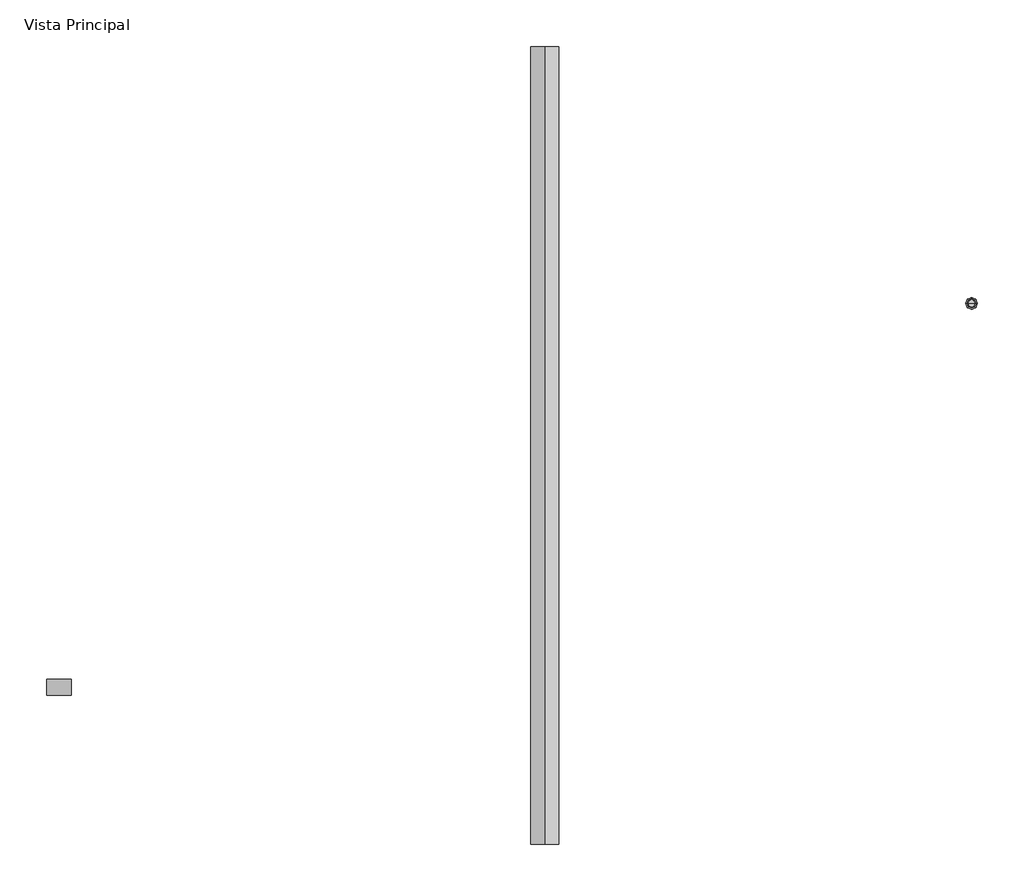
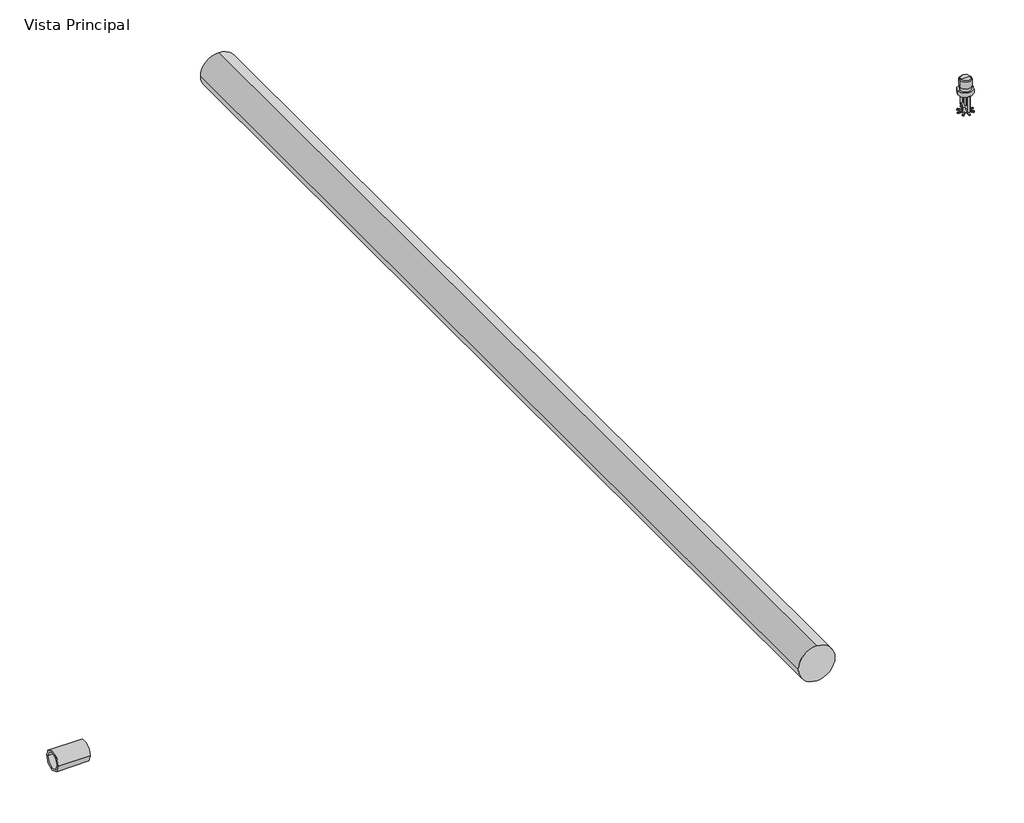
# One storey, incomplete: 2 pipe fittings, 1 pipe segment.
"""IFC4 building model written with IfcOpenShell, lengths in millimetres."""

import ifcopenshell
import ifcopenshell.guid

model = None  # the IFC model being written
_history = None  # IfcOwnerHistory: only IFC2X3 demands one
_inside = {}  # id of a spatial element -> (the spatial element, [elements in it])
_under = {}  # id of a project, library or spatial element -> (it, [spatial elements below it])
_declared = {}  # id of a project -> (the project, [libraries it declares])
_typed = {}  # id of a type object -> (the type object, [elements of that type])
_made_of = {}  # id of a material, layer set ... -> (it, [elements and type objects made of it])


def new_model(schema):
    """Start an empty IFC model of exactly this schema.

    Asked for "IFC4X3", IfcOpenShell would pick the latest addendum, in which some entities
    have other attributes; the version numbers below select the first issue.
    IFC2X3 requires an IfcOwnerHistory on every rooted entity: one is made here for all.
    """
    global model, _history
    if schema == "IFC4X3":
        model = ifcopenshell.file(schema_version=(4, 3, 0, 0))
    else:
        model = ifcopenshell.file(schema=schema)
    _inside.clear()
    _under.clear()
    _declared.clear()
    _typed.clear()
    _made_of.clear()
    _history = None
    if model.schema == "IFC2X3":
        org = make("IfcOrganization", Name="unknown")
        user = make(
            "IfcPersonAndOrganization",
            ThePerson=make("IfcPerson", FamilyName="unknown"),
            TheOrganization=org,
        )
        app = make(
            "IfcApplication",
            ApplicationDeveloper=org,
            Version="unknown",
            ApplicationFullName="unknown",
            ApplicationIdentifier="unknown",
        )
        _history = make(
            "IfcOwnerHistory",
            OwningUser=user,
            OwningApplication=app,
            ChangeAction="ADDED",
            CreationDate=0,
        )
    return model


def make(cls, **values):
    """One entity of the class cls with the attributes given. An attribute that is None is left unset."""
    return model.create_entity(
        cls, **{name: value for name, value in values.items() if value is not None}
    )


def rooted(cls, **values):
    """An entity with a GlobalId (a new one), such as an element, a storey or a relation."""
    return make(cls, GlobalId=ifcopenshell.guid.new(), OwnerHistory=_history, **values)


def si_unit(unit_type, name, prefix=None):
    """IfcSIUnit, for example si_unit("LENGTHUNIT", "METRE", prefix="MILLI")."""
    return make("IfcSIUnit", UnitType=unit_type, Prefix=prefix, Name=name)


def assignment(units):
    """IfcUnitAssignment: the units of a project."""
    return None if units is None else make("IfcUnitAssignment", Units=units)


def point(xyz):
    """IfcCartesianPoint."""
    return None if xyz is None else make("IfcCartesianPoint", Coordinates=xyz)


def direction(xyz):
    """IfcDirection."""
    return None if xyz is None else make("IfcDirection", DirectionRatios=xyz)


def frame(location, z_axis=None, x_axis=None):
    """IfcAxis2Placement3D, a coordinate frame: its origin and axes. An axis left out is left unset."""
    return make(
        "IfcAxis2Placement3D",
        Location=point(location),
        Axis=direction(z_axis),
        RefDirection=direction(x_axis),
    )


def frame_2d(location, x_axis=None):
    """IfcAxis2Placement2D, a coordinate frame in the plane: its origin and x axis."""
    return make(
        "IfcAxis2Placement2D", Location=point(location), RefDirection=direction(x_axis)
    )


def origin():
    """The frame at (0, 0, 0) with its axes left unset."""
    return frame((0.0, 0.0, 0.0))


def origin_with_axes():
    """The frame at (0, 0, 0) with the z axis (0, 0, 1) and the x axis (1, 0, 0) written out."""
    return frame((0.0, 0.0, 0.0), z_axis=(0.0, 0.0, 1.0), x_axis=(1.0, 0.0, 0.0))


def origin_2d():
    """The frame at (0, 0) in the plane with its x axis left unset."""
    return frame_2d((0.0, 0.0))


def place(relative_to, where):
    """IfcLocalPlacement: puts the frame where relative to a parent placement (None: the world)."""
    return make(
        "IfcLocalPlacement", PlacementRelTo=relative_to, RelativePlacement=where
    )


def context(
    kind, dimensions, precision=None, world=None, true_north=None, identifier=None
):
    """IfcGeometricRepresentationContext, for example the 3D "Model" context."""
    return make(
        "IfcGeometricRepresentationContext",
        ContextIdentifier=identifier,
        ContextType=kind,
        CoordinateSpaceDimension=dimensions,
        Precision=precision,
        WorldCoordinateSystem=world,
        TrueNorth=true_north,
    )


def project(units=None, contexts=None):
    """IfcProject with its units and contexts."""
    return rooted(
        "IfcProject",
        Name="project",
        RepresentationContexts=contexts,
        UnitsInContext=assignment(units),
    )


def spatial(cls, under=None, at=None, **own):
    """A site, building, storey or space (cls), placed at a placement, below another one or the project."""
    s = rooted(cls, ObjectPlacement=at, **own)
    if under is not None:
        _under.setdefault(under.id(), (under, []))[1].append(s)
    return s


def polyline(points):
    """IfcPolyline through the points."""
    return make("IfcPolyline", Points=[point(p) for p in points])


def circle_curve(where, radius):
    """IfcCircle in the frame where."""
    return make("IfcCircle", Position=where, Radius=radius)


def trimmed(basis, trim1, trim2, sense, master):
    """IfcTrimmedCurve: the piece of a basis curve between two trims."""
    return make(
        "IfcTrimmedCurve",
        BasisCurve=basis,
        Trim1=trim1,
        Trim2=trim2,
        SenseAgreement=sense,
        MasterRepresentation=master,
    )


def segment(curve, same_sense, transition):
    """IfcCompositeCurveSegment."""
    return make(
        "IfcCompositeCurveSegment",
        Transition=transition,
        SameSense=same_sense,
        ParentCurve=curve,
    )


def composite_curve(segments, self_intersect=None):
    """IfcCompositeCurve: segments joined end to end."""
    return make("IfcCompositeCurve", Segments=segments, SelfIntersect=self_intersect)


def outline(outer, holes=None, kind="AREA"):
    """IfcArbitraryClosedProfileDef: a profile drawn as a closed curve; with holes, ...WithVoids."""
    if holes is None:
        return make("IfcArbitraryClosedProfileDef", ProfileType=kind, OuterCurve=outer)
    return make(
        "IfcArbitraryProfileDefWithVoids",
        ProfileType=kind,
        OuterCurve=outer,
        InnerCurves=holes,
    )


def extrude(swept, where, along, depth):
    """IfcExtrudedAreaSolid: the profile swept, set in the frame where, extruded along a direction by depth."""
    return make(
        "IfcExtrudedAreaSolid",
        SweptArea=swept,
        Position=where,
        ExtrudedDirection=direction(along),
        Depth=depth,
    )


def shape(context_of_items, identifier, shape_type, items):
    """IfcShapeRepresentation: the items that make up one representation, for example the "Body"."""
    return make(
        "IfcShapeRepresentation",
        ContextOfItems=context_of_items,
        RepresentationIdentifier=identifier,
        RepresentationType=shape_type,
        Items=items,
    )


def source(mapping_origin, context_of_items, identifier, shape_type, items):
    """IfcRepresentationMap: a shape defined once, which mapped items show again and again."""
    return make(
        "IfcRepresentationMap",
        MappingOrigin=mapping_origin,
        MappedRepresentation=shape(context_of_items, identifier, shape_type, items),
    )


def transform(
    local_origin,
    x_axis=None,
    y_axis=None,
    z_axis=None,
    scale=None,
    scale2=None,
    scale3=None,
    uniform=True,
):
    """IfcCartesianTransformationOperator3D, or its non-uniform kind. x_axis, y_axis, z_axis: its Axis1, 2, 3."""
    if uniform:
        return make(
            "IfcCartesianTransformationOperator3D",
            Axis1=direction(x_axis),
            Axis2=direction(y_axis),
            LocalOrigin=point(local_origin),
            Scale=scale,
            Axis3=direction(z_axis),
        )
    return make(
        "IfcCartesianTransformationOperator3DnonUniform",
        Axis1=direction(x_axis),
        Axis2=direction(y_axis),
        LocalOrigin=point(local_origin),
        Scale=scale,
        Axis3=direction(z_axis),
        Scale2=scale2,
        Scale3=scale3,
    )


def mapped(mapping_source, mapping_target):
    """IfcMappedItem: shows the shape of a source again, moved by a transform."""
    return make(
        "IfcMappedItem", MappingSource=mapping_source, MappingTarget=mapping_target
    )


def made_of(thing, what):
    """Note that an element or type object is made of a material, layer set ...; save() writes the relation."""
    if what is not None:
        _made_of.setdefault(what.id(), (what, []))[1].append(thing)
    return thing


def element(
    cls,
    number,
    at=None,
    inside=None,
    cuts=None,
    type_object=None,
    material=None,
    context=None,
    identifier="Body",
    shape_type=None,
    held_by="IfcProductDefinitionShape",
    body=None,
    shapes=None,
    **own,
):
    """One element of the class cls, such as IfcWall. Its Tag is "e" and its number.

    at: its placement. inside: the storey or other place that contains it. cuts: it is an
    opening in that element (IfcRelVoidsElement). A single representation is given by context,
    identifier, shape_type and body (its items); several are given by shapes. held_by: the class
    of the entity that holds the representations. save() writes the other relations.
    """
    e = rooted(cls, Tag="e%d" % number, ObjectPlacement=at, **own)
    if body is not None:
        shapes = [shape(context, identifier, shape_type, body)]
    if shapes is not None:
        e.Representation = make(held_by, Representations=shapes)
    if inside is not None:
        _inside.setdefault(inside.id(), (inside, []))[1].append(e)
    if cuts is not None:
        rooted(
            "IfcRelVoidsElement", RelatingBuildingElement=cuts, RelatedOpeningElement=e
        )
    if type_object is not None:
        _typed.setdefault(type_object.id(), (type_object, []))[1].append(e)
    return made_of(e, material)


def aggregate(whole, parts):
    """IfcRelAggregates: a whole, such as a stair, and the parts it consists of."""
    return rooted("IfcRelAggregates", RelatingObject=whole, RelatedObjects=parts)


def save(model, path):
    """Write the relations noted so far, then the file.

    IfcRelAggregates (storeys below a building ...), IfcRelContainedInSpatialStructure (elements
    in a storey), IfcRelDefinesByType, IfcRelAssociatesMaterial and IfcRelDeclares: one each for
    every whole, place, type object, material and project.
    """
    for whole, parts in _under.values():
        aggregate(whole, parts)
    for where, things in _inside.values():
        rooted(
            "IfcRelContainedInSpatialStructure",
            RelatedElements=things,
            RelatingStructure=where,
        )
    for kind, things in _typed.values():
        rooted("IfcRelDefinesByType", RelatedObjects=things, RelatingType=kind)
    for what, things in _made_of.values():
        rooted("IfcRelAssociatesMaterial", RelatedObjects=things, RelatingMaterial=what)
    for by, libraries in _declared.values():
        rooted("IfcRelDeclares", RelatingContext=by, RelatedDefinitions=libraries)
    model.write(path)


def plane_surface(at):
    """IfcPlane: the flat surface through the origin of the frame at, square to its z axis."""
    return make("IfcPlane", Position=at)


def cylinder_surface(at, radius):
    """IfcCylindricalSurface: all points at the distance radius from the z axis of the frame at."""
    return make("IfcCylindricalSurface", Position=at, Radius=radius)


def revolved_surface(curve, axis_point, axis_direction):
    """IfcSurfaceOfRevolution: the curve turned about the line through axis_point along axis_direction."""
    return make(
        "IfcSurfaceOfRevolution",
        SweptCurve=make("IfcArbitraryOpenProfileDef", ProfileType="CURVE", Curve=curve),
        AxisPosition=make("IfcAxis1Placement", Location=point(axis_point), Axis=direction(axis_direction)),
    )


def advanced_brep(points, edges, surfaces, faces):
    """IfcAdvancedBrep: a solid bounded by faces that lie on surfaces and meet in shared edges.

    An edge is (start, end): straight between two places in points (the first is 0);
    or (start, end, curve); or (start, end, curve, False) where it runs against its curve.
    A face is (place in surfaces, loops), or (place, loops, False) where it looks against
    its surface's normal. A loop lists edges by number (the first is 1), with a minus sign
    where the edge is run from its end to its start. The first loop is the outer one.
    """
    corners = [point(p) for p in points]
    vertices = [make("IfcVertexPoint", VertexGeometry=c) for c in corners]
    made = []
    for start, end, *more in edges:
        made.append(
            make(
                "IfcEdgeCurve",
                EdgeStart=vertices[start],
                EdgeEnd=vertices[end],
                EdgeGeometry=more[0] if more else make("IfcPolyline", Points=[corners[start], corners[end]]),
                SameSense=more[1] if len(more) > 1 else True,
            )
        )
    hull = []
    for where, loops, *sense in faces:
        bounds = []
        for j, loop in enumerate(loops):
            ring = [make("IfcOrientedEdge", EdgeElement=made[abs(k) - 1], Orientation=k > 0) for k in loop]
            bounds.append(
                make(
                    "IfcFaceOuterBound" if j == 0 else "IfcFaceBound",
                    Bound=make("IfcEdgeLoop", EdgeList=ring),
                    Orientation=True,
                )
            )
        hull.append(make("IfcAdvancedFace", Bounds=bounds, FaceSurface=surfaces[where], SameSense=sense[0] if sense else True))
    return make("IfcAdvancedBrep", Outer=make("IfcClosedShell", CfsFaces=hull))


def var_06a8be00(model_context):
    return source(origin(), model_context, "Body", "AdvancedBrep", [
        advanced_brep(
        [(-1.525, 0.0, 0.0), (-1.525, 13.55, 0.0), (-1.525, -13.55, 0.0), (1.525, -13.55, 0.0), (1.525, 13.55, 0.0), (1.525, 0.0, 0.0), (26.425, -13.55, 0.0), (26.425, 13.55, 0.0), (26.425, -16.6, 0.0), (26.425, 16.6, 0.0), (-26.425, -16.6, 0.0), (-26.425, 16.6, 0.0), (-26.425, -13.55, 0.0), (-26.425, 13.55, 0.0)],
        [
            (0, 1),
            (1, 2, circle_curve(frame((-1.525, 0.0, 0.0), z_axis=(-1.0, 0.0, 0.0), x_axis=(0.0, 1.0, 0.0)), 13.55)),
            (2, 0),
            (2, 1, circle_curve(frame((-1.525, 0.0, 0.0), z_axis=(-1.0, 0.0, 0.0), x_axis=(0.0, 1.0, 0.0)), 13.55)),
            (3, 4, circle_curve(frame((1.525, 0.0, 0.0), z_axis=(1.0, 0.0, 0.0), x_axis=(0.0, 1.0, 0.0)), 13.55)),
            (4, 5),
            (5, 3),
            (4, 3, circle_curve(frame((1.525, 0.0, 0.0), z_axis=(1.0, 0.0, 0.0), x_axis=(0.0, 1.0, 0.0)), 13.55)),
            (6, 7, circle_curve(frame((26.425, 0.0, 0.0), z_axis=(1.0, 0.0, 0.0), x_axis=(0.0, 1.0, 0.0)), 13.55)),
            (7, 4),
            (3, 6),
            (7, 6, circle_curve(frame((26.425, 0.0, 0.0), z_axis=(1.0, 0.0, 0.0), x_axis=(0.0, 1.0, 0.0)), 13.55)),
            (8, 9, circle_curve(frame((26.425, 0.0, 0.0), z_axis=(1.0, 0.0, 0.0), x_axis=(0.0, 1.0, 0.0)), 16.6)),
            (9, 7),
            (6, 8),
            (9, 8, circle_curve(frame((26.425, 0.0, 0.0), z_axis=(1.0, 0.0, 0.0), x_axis=(0.0, 1.0, 0.0)), 16.6)),
            (10, 11, circle_curve(frame((-26.425, 0.0, 0.0), z_axis=(1.0, 0.0, 0.0), x_axis=(0.0, 1.0, 0.0)), 16.6)),
            (11, 9),
            (8, 10),
            (11, 10, circle_curve(frame((-26.425, 0.0, 0.0), z_axis=(1.0, 0.0, 0.0), x_axis=(0.0, 1.0, 0.0)), 16.6)),
            (12, 13, circle_curve(frame((-26.425, 0.0, 0.0), z_axis=(1.0, 0.0, 0.0), x_axis=(0.0, 1.0, 0.0)), 13.55)),
            (13, 11),
            (10, 12),
            (13, 12, circle_curve(frame((-26.425, 0.0, 0.0), z_axis=(1.0, 0.0, 0.0), x_axis=(0.0, 1.0, 0.0)), 13.55)),
            (1, 13),
            (12, 2),
        ],
        [
            plane_surface(frame((-1.525, 0.0, 0.0), z_axis=(-1.0, 0.0, 0.0), x_axis=(0.0, 1.0, 0.0))),
            plane_surface(frame((1.525, 0.0, 0.0), z_axis=(1.0, 0.0, 0.0), x_axis=(0.0, 1.0, 0.0))),
            revolved_surface(polyline([(1.525000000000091, 13.55, 0.0), (26.424999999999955, 13.55, 0.0)]), (1997.49, 0.0, 0.0), (-1.0, 0.0, 0.0)),
            plane_surface(frame((26.425, 0.0, 0.0), z_axis=(1.0, 0.0, 0.0), x_axis=(0.0, 1.0, 0.0))),
            cylinder_surface(frame((1997.49, 0.0, 0.0), z_axis=(-1.0, 0.0, 0.0), x_axis=(0.0, 1.0, 0.0)), 16.6),
            plane_surface(frame((-26.425, 0.0, 0.0), z_axis=(-1.0, 0.0, 0.0), x_axis=(0.0, 1.0, 0.0))),
            revolved_surface(polyline([(-26.424999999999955, 13.55, 0.0), (-1.525000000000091, 13.55, 0.0)]), (1997.49, 0.0, 0.0), (-1.0, 0.0, 0.0)),
        ],
        [
            (0, [[1, 2, 3]]),
            (0, [[-3, 4, -1]]),
            (1, [[5, 6, 7]]),
            (1, [[8, -7, -6]]),
            (2, [[9, 10, -5, 11]]),
            (2, [[12, -11, -8, -10]]),
            (3, [[13, 14, -9, 15]]),
            (3, [[16, -15, -12, -14]]),
            (4, [[17, 18, -13, 19]]),
            (4, [[20, -19, -16, -18]]),
            (5, [[21, 22, -17, 23]]),
            (5, [[24, -23, -20, -22]]),
            (6, [[-2, 25, -21, 26]]),
            (6, [[-4, -26, -24, -25]]),
        ],
    ),
    ])


def var_fcf59cf1(model_context):
    return source(origin(), model_context, "Body", "SolidModel", [
        advanced_brep(
        [(0.0, -12.4454107, -52.5), (-2.0, -10.4454107, -52.5), (-2.0, -4.385476, -52.5), (2.0, -4.385476, -52.5), (2.0, -10.4454107, -52.5), (-2.0, 10.4454107, -52.5), (0.0, 12.4454107, -52.5), (2.0, 10.4454107, -52.5), (2.0, 4.385476, -52.5), (-2.0, 4.385476, -52.5), (0.0, -12.4454107, -25.5), (0.0, -8.4454107, -25.5), (0.0, 8.4454107, -25.5), (0.0, 12.4454107, -25.5), (0.0, -8.4454107, -48.5), (-2.0, -10.4454107, -48.5), (2.0, -10.4454107, -48.5), (-2.0, 10.4454107, -48.5), (0.0, 8.4454107, -48.5), (2.0, 10.4454107, -48.5), (2.0, -4.385476, -48.5), (4.82, 0.0, -48.5), (2.0, 4.385476, -48.5), (-2.0, 4.385476, -48.5), (-4.82, 0.0, -48.5), (-2.0, -4.385476, -48.5), (1.0, -12.5, -58.0), (-1.0, -12.5, -58.0), (-1.0, -4.7151246, -58.0), (-2.6269898, -4.0412034, -58.0), (-8.131728, -9.5459415, -58.0), (-9.5459415, -8.131728, -58.0), (-4.0412034, -2.6269898, -58.0), (-4.7151246, -1.0, -58.0), (-12.5, -1.0, -58.0), (-12.5, 1.0, -58.0), (-4.7151246, 1.0, -58.0), (-4.0412034, 2.6269898, -58.0), (-9.5459415, 8.131728, -58.0), (-8.131728, 9.5459415, -58.0), (-2.6269898, 4.0412034, -58.0), (-1.0, 4.7151246, -58.0), (-1.0, 12.5, -58.0), (1.0, 12.5, -58.0), (1.0, 4.7151246, -58.0), (2.6269898, 4.0412034, -58.0), (8.131728, 9.5459415, -58.0), (9.5459415, 8.131728, -58.0), (4.0412034, 2.6269898, -58.0), (4.7151246, 1.0, -58.0), (12.5, 1.0, -58.0), (12.5, -1.0, -58.0), (4.7151246, -1.0, -58.0), (4.0412034, -2.6269898, -58.0), (9.5459415, -8.131728, -58.0), (8.131728, -9.5459415, -58.0), (2.6269898, -4.0412034, -58.0), (1.0, -4.7151246, -58.0), (4.82, 0.0, -56.0), (4.7151246, 1.0, -56.0), (4.0412034, 2.6269898, -56.0), (2.6269898, 4.0412034, -56.0), (1.0, 4.7151246, -56.0), (-1.0, 4.7151246, -56.0), (-2.6269898, 4.0412034, -56.0), (-4.0412034, 2.6269898, -56.0), (-4.7151246, 1.0, -56.0), (-4.82, 0.0, -56.0), (-4.7151246, -1.0, -56.0), (-4.0412034, -2.6269898, -56.0), (-2.6269898, -4.0412034, -56.0), (-1.0, -4.7151246, -56.0), (1.0, -4.7151246, -56.0), (2.6269898, -4.0412034, -56.0), (4.0412034, -2.6269898, -56.0), (4.7151246, -1.0, -56.0), (-1.0, -12.5, -56.0), (1.0, -12.5, -56.0), (8.131728, -9.5459415, -56.0), (9.5459415, -8.131728, -56.0), (12.5, -1.0, -56.0), (12.5, 1.0, -56.0), (9.5459415, 8.131728, -56.0), (8.131728, 9.5459415, -56.0), (1.0, 12.5, -56.0), (-1.0, 12.5, -56.0), (-8.131728, 9.5459415, -56.0), (-9.5459415, 8.131728, -56.0), (-12.5, 1.0, -56.0), (-12.5, -1.0, -56.0), (-9.5459415, -8.131728, -56.0), (-8.131728, -9.5459415, -56.0)],
        [
            (0, 1, circle_curve(frame((0.0, -10.4454107, -52.5), z_axis=(0.0, 0.0, -1.0), x_axis=(0.0, 1.0, 0.0)), 2.0)),
            (1, 2),
            (2, 3, circle_curve(frame((0.0, 0.0, -52.5), z_axis=(0.0, 0.0, 1.0), x_axis=(1.0, 0.0, 0.0)), 4.82)),
            (3, 4),
            (4, 0, circle_curve(frame((0.0, -10.4454107, -52.5), z_axis=(0.0, 0.0, -1.0), x_axis=(0.0, 1.0, 0.0)), 2.0)),
            (5, 6, circle_curve(frame((0.0, 10.4454107, -52.5), z_axis=(0.0, 0.0, -1.0), x_axis=(0.0, 1.0, 0.0)), 2.0)),
            (6, 7, circle_curve(frame((0.0, 10.4454107, -52.5), z_axis=(0.0, 0.0, -1.0), x_axis=(0.0, 1.0, 0.0)), 2.0)),
            (7, 8),
            (8, 9, circle_curve(frame((0.0, 0.0, -52.5), z_axis=(0.0, 0.0, 1.0), x_axis=(1.0, 0.0, 0.0)), 4.82)),
            (9, 5),
            (10, 11, circle_curve(frame((0.0, -10.4454107, -25.5), z_axis=(0.0, 0.0, 1.0), x_axis=(0.0, 1.0, 0.0)), 2.0)),
            (11, 10, circle_curve(frame((0.0, -10.4454107, -25.5), z_axis=(0.0, 0.0, 1.0), x_axis=(0.0, 1.0, 0.0)), 2.0)),
            (12, 13, circle_curve(frame((0.0, 10.4454107, -25.5), z_axis=(0.0, 0.0, 1.0), x_axis=(0.0, 1.0, 0.0)), 2.0)),
            (13, 12, circle_curve(frame((0.0, 10.4454107, -25.5), z_axis=(0.0, 0.0, 1.0), x_axis=(0.0, 1.0, 0.0)), 2.0)),
            (11, 14),
            (14, 15, circle_curve(frame((0.0, -10.4454107, -48.5), z_axis=(0.0, 0.0, 1.0), x_axis=(0.0, 1.0, 0.0)), 2.0)),
            (15, 1),
            (0, 10),
            (4, 16),
            (16, 14, circle_curve(frame((0.0, -10.4454107, -48.5), z_axis=(0.0, 0.0, 1.0), x_axis=(0.0, 1.0, 0.0)), 2.0)),
            (13, 6),
            (5, 17),
            (17, 18, circle_curve(frame((0.0, 10.4454107, -48.5), z_axis=(0.0, 0.0, 1.0), x_axis=(0.0, 1.0, 0.0)), 2.0)),
            (18, 12),
            (18, 19, circle_curve(frame((0.0, 10.4454107, -48.5), z_axis=(0.0, 0.0, 1.0), x_axis=(0.0, 1.0, 0.0)), 2.0)),
            (19, 7),
            (16, 20),
            (20, 21, circle_curve(frame((0.0, 0.0, -48.5), z_axis=(0.0, 0.0, 1.0), x_axis=(1.0, 0.0, 0.0)), 4.82)),
            (21, 22, circle_curve(frame((0.0, 0.0, -48.5), z_axis=(0.0, 0.0, 1.0), x_axis=(1.0, 0.0, 0.0)), 4.82)),
            (22, 19),
            (17, 23),
            (23, 24, circle_curve(frame((0.0, 0.0, -48.5), z_axis=(0.0, 0.0, 1.0), x_axis=(1.0, 0.0, 0.0)), 4.82)),
            (24, 25, circle_curve(frame((0.0, 0.0, -48.5), z_axis=(0.0, 0.0, 1.0), x_axis=(1.0, 0.0, 0.0)), 4.82)),
            (25, 15),
            (25, 2),
            (9, 23),
            (3, 20),
            (22, 8),
            (26, 27),
            (27, 28),
            (28, 29, circle_curve(frame((0.0, 0.0, -58.0), z_axis=(0.0, 0.0, -1.0), x_axis=(1.0, 0.0, 0.0)), 4.82)),
            (29, 30),
            (30, 31),
            (31, 32),
            (32, 33, circle_curve(frame((0.0, 0.0, -58.0), z_axis=(0.0, 0.0, -1.0), x_axis=(1.0, 0.0, 0.0)), 4.82)),
            (33, 34),
            (34, 35),
            (35, 36),
            (36, 37, circle_curve(frame((0.0, 0.0, -58.0), z_axis=(0.0, 0.0, -1.0), x_axis=(1.0, 0.0, 0.0)), 4.82)),
            (37, 38),
            (38, 39),
            (39, 40),
            (40, 41, circle_curve(frame((0.0, 0.0, -58.0), z_axis=(0.0, 0.0, -1.0), x_axis=(1.0, 0.0, 0.0)), 4.82)),
            (41, 42),
            (42, 43),
            (43, 44),
            (44, 45, circle_curve(frame((0.0, 0.0, -58.0), z_axis=(0.0, 0.0, -1.0), x_axis=(1.0, 0.0, 0.0)), 4.82)),
            (45, 46),
            (46, 47),
            (47, 48),
            (48, 49, circle_curve(frame((0.0, 0.0, -58.0), z_axis=(0.0, 0.0, -1.0), x_axis=(1.0, 0.0, 0.0)), 4.82)),
            (49, 50),
            (50, 51),
            (51, 52),
            (52, 53, circle_curve(frame((0.0, 0.0, -58.0), z_axis=(0.0, 0.0, -1.0), x_axis=(1.0, 0.0, 0.0)), 4.82)),
            (53, 54),
            (54, 55),
            (55, 56),
            (56, 57, circle_curve(frame((0.0, 0.0, -58.0), z_axis=(0.0, 0.0, -1.0), x_axis=(1.0, 0.0, 0.0)), 4.82)),
            (57, 26),
            (21, 58),
            (58, 59, circle_curve(frame((0.0, 0.0, -56.0), z_axis=(0.0, 0.0, 1.0), x_axis=(1.0, 0.0, 0.0)), 4.82)),
            (59, 49),
            (48, 60),
            (60, 61, circle_curve(frame((0.0, 0.0, -56.0), z_axis=(0.0, 0.0, 1.0), x_axis=(1.0, 0.0, 0.0)), 4.82)),
            (61, 45),
            (44, 62),
            (62, 63, circle_curve(frame((0.0, 0.0, -56.0), z_axis=(0.0, 0.0, 1.0), x_axis=(1.0, 0.0, 0.0)), 4.82)),
            (63, 41),
            (40, 64),
            (64, 65, circle_curve(frame((0.0, 0.0, -56.0), z_axis=(0.0, 0.0, 1.0), x_axis=(1.0, 0.0, 0.0)), 4.82)),
            (65, 37),
            (36, 66),
            (66, 67, circle_curve(frame((0.0, 0.0, -56.0), z_axis=(0.0, 0.0, 1.0), x_axis=(1.0, 0.0, 0.0)), 4.82)),
            (67, 24),
            (67, 68, circle_curve(frame((0.0, 0.0, -56.0), z_axis=(0.0, 0.0, 1.0), x_axis=(1.0, 0.0, 0.0)), 4.82)),
            (68, 33),
            (32, 69),
            (69, 70, circle_curve(frame((0.0, 0.0, -56.0), z_axis=(0.0, 0.0, 1.0), x_axis=(1.0, 0.0, 0.0)), 4.82)),
            (70, 29),
            (28, 71),
            (71, 72, circle_curve(frame((0.0, 0.0, -56.0), z_axis=(0.0, 0.0, 1.0), x_axis=(1.0, 0.0, 0.0)), 4.82)),
            (72, 57),
            (56, 73),
            (73, 74, circle_curve(frame((0.0, 0.0, -56.0), z_axis=(0.0, 0.0, 1.0), x_axis=(1.0, 0.0, 0.0)), 4.82)),
            (74, 53),
            (52, 75),
            (75, 58, circle_curve(frame((0.0, 0.0, -56.0), z_axis=(0.0, 0.0, 1.0), x_axis=(1.0, 0.0, 0.0)), 4.82)),
            (76, 77),
            (77, 72),
            (71, 76),
            (26, 77),
            (76, 27),
            (78, 79),
            (79, 74),
            (73, 78),
            (54, 79),
            (78, 55),
            (80, 81),
            (81, 59),
            (75, 80),
            (50, 81),
            (80, 51),
            (82, 83),
            (83, 61),
            (60, 82),
            (46, 83),
            (82, 47),
            (84, 85),
            (85, 63),
            (62, 84),
            (42, 85),
            (84, 43),
            (86, 87),
            (87, 65),
            (64, 86),
            (38, 87),
            (86, 39),
            (88, 89),
            (89, 68),
            (66, 88),
            (34, 89),
            (88, 35),
            (90, 91),
            (91, 70),
            (69, 90),
            (30, 91),
            (90, 31),
        ],
        [
            plane_surface(frame((0.0, -8.4454107, -52.5), z_axis=(0.0, 0.0, -1.0), x_axis=(1.0, 0.0, 0.0))),
            plane_surface(frame((0.0, -8.4454107, -25.5), z_axis=(0.0, 0.0, 1.0), x_axis=(-1.0, 0.0, 0.0))),
            cylinder_surface(frame((0.0, -10.4454107, -25.5), z_axis=(0.0, 0.0, -1.0), x_axis=(0.0, 1.0, 0.0)), 2.0),
            cylinder_surface(frame((0.0, 10.4454107, -25.5), z_axis=(0.0, 0.0, -1.0), x_axis=(0.0, 1.0, 0.0)), 2.0),
            plane_surface(frame((-2.0, -10.4454107, -48.5), z_axis=(0.0, 0.0, 1.0), x_axis=(1.0, 0.0, 0.0))),
            plane_surface(frame((-2.0, -10.4454107, -52.5), z_axis=(-1.0, 0.0, 0.0), x_axis=(0.0, 0.0, 1.0))),
            plane_surface(frame((2.0, 10.4454107, -52.5), z_axis=(1.0, 0.0, 0.0), x_axis=(0.0, 0.0, 1.0))),
            plane_surface(frame((4.82, 0.0, -58.0), z_axis=(0.0, 0.0, -1.0), x_axis=(0.0, -1.0, 0.0))),
            cylinder_surface(frame((0.0, 0.0, -48.5), z_axis=(0.0, 0.0, -1.0), x_axis=(1.0, 0.0, 0.0)), 4.82),
            plane_surface(frame((-0.8556129, -12.5, -56.0), z_axis=(0.0, 0.0, 1.0), x_axis=(1.0, 0.0, 0.0))),
            plane_surface(frame((1.0, -12.5, -58.0), z_axis=(0.0, -1.0, 0.0), x_axis=(0.0, 0.0, 1.0))),
            plane_surface(frame((-1.0, -12.5, -58.0), z_axis=(-1.0, 0.0, 0.0), x_axis=(0.0, 0.0, 1.0))),
            plane_surface(frame((1.0, -3.9129669, -58.0), z_axis=(1.0, 0.0, 0.0), x_axis=(0.0, 0.0, 1.0))),
            plane_surface(frame((8.2338251, -9.4438444, -56.0), z_axis=(0.0, 0.0, 1.0), x_axis=(0.7071067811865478, 0.7071067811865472, 0.0))),
            plane_surface(frame((9.5459415, -8.131728, -58.0), z_axis=(0.7071067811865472, -0.7071067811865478, 0.0), x_axis=(0.0, 0.0, 1.0))),
            plane_surface(frame((8.131728, -9.5459415, -58.0), z_axis=(-0.7071067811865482, -0.7071067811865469, 0.0), x_axis=(0.0, 0.0, 1.0))),
            plane_surface(frame((3.4739922, -2.0597786, -58.0), z_axis=(0.707106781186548, 0.7071067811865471, 0.0), x_axis=(0.0, 0.0, 1.0))),
            plane_surface(frame((12.5, -0.8556129, -56.0), z_axis=(0.0, 0.0, 1.0), x_axis=(0.0, 1.0, 0.0))),
            plane_surface(frame((12.5, 1.0, -58.0), z_axis=(1.0, 0.0, 0.0), x_axis=(0.0, 0.0, 1.0))),
            plane_surface(frame((12.5, -1.0, -58.0), z_axis=(0.0, -1.0, 0.0), x_axis=(0.0, 0.0, 1.0))),
            plane_surface(frame((3.9129669, 1.0, -58.0), z_axis=(0.0, 1.0, 0.0), x_axis=(0.0, 0.0, 1.0))),
            plane_surface(frame((9.4438444, 8.2338251, -56.0), z_axis=(0.0, 0.0, 1.0), x_axis=(-0.707106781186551, 0.7071067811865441, 0.0))),
            plane_surface(frame((8.131728, 9.5459415, -58.0), z_axis=(0.7071067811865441, 0.707106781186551, 0.0), x_axis=(0.0, 0.0, 1.0))),
            plane_surface(frame((9.5459415, 8.131728, -58.0), z_axis=(0.7071067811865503, -0.7071067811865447, 0.0), x_axis=(0.0, 0.0, 1.0))),
            plane_surface(frame((2.0597786, 3.4739922, -58.0), z_axis=(-0.7071067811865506, 0.7071067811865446, 0.0), x_axis=(0.0, 0.0, 1.0))),
            plane_surface(frame((0.8556129, 12.5, -56.0), z_axis=(0.0, 0.0, 1.0), x_axis=(-1.0, 0.0, 0.0))),
            plane_surface(frame((-1.0, 12.5, -58.0), z_axis=(0.0, 1.0, 0.0), x_axis=(0.0, 0.0, 1.0))),
            plane_surface(frame((1.0, 12.5, -58.0), z_axis=(1.0, 0.0, 0.0), x_axis=(0.0, 0.0, 1.0))),
            plane_surface(frame((-1.0, 3.9129669, -58.0), z_axis=(-1.0, 0.0, 0.0), x_axis=(0.0, 0.0, 1.0))),
            plane_surface(frame((-8.2338251, 9.4438444, -56.0), z_axis=(0.0, 0.0, 1.0), x_axis=(-0.7071067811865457, -0.7071067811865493, 0.0))),
            plane_surface(frame((-9.5459415, 8.131728, -58.0), z_axis=(-0.7071067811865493, 0.7071067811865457, 0.0), x_axis=(0.0, 0.0, 1.0))),
            plane_surface(frame((-8.131728, 9.5459415, -58.0), z_axis=(0.7071067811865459, 0.7071067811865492, 0.0), x_axis=(0.0, 0.0, 1.0))),
            plane_surface(frame((-3.4739922, 2.0597786, -58.0), z_axis=(-0.7071067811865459, -0.7071067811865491, 0.0), x_axis=(0.0, 0.0, 1.0))),
            plane_surface(frame((-12.5, 0.8556129, -56.0), z_axis=(0.0, 0.0, 1.0), x_axis=(0.0, -1.0, 0.0))),
            plane_surface(frame((-12.5, -1.0, -58.0), z_axis=(-1.0, 0.0, 0.0), x_axis=(0.0, 0.0, 1.0))),
            plane_surface(frame((-12.5, 1.0, -58.0), z_axis=(0.0, 1.0, 0.0), x_axis=(0.0, 0.0, 1.0))),
            plane_surface(frame((-3.9129669, -1.0, -58.0), z_axis=(0.0, -1.0, 0.0), x_axis=(0.0, 0.0, 1.0))),
            plane_surface(frame((-9.4438444, -8.2338251, -56.0), z_axis=(0.0, 0.0, 1.0), x_axis=(0.7071067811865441, -0.707106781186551, 0.0))),
            plane_surface(frame((-8.131728, -9.5459415, -58.0), z_axis=(-0.707106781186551, -0.7071067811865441, 0.0), x_axis=(0.0, 0.0, 1.0))),
            plane_surface(frame((-9.5459415, -8.131728, -58.0), z_axis=(-0.7071067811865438, 0.7071067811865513, 0.0), x_axis=(0.0, 0.0, 1.0))),
            plane_surface(frame((-2.0597786, -3.4739922, -58.0), z_axis=(0.7071067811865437, -0.7071067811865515, 0.0), x_axis=(0.0, 0.0, 1.0))),
        ],
        [
            (0, [[1, 2, 3, 4, 5]]),
            (0, [[6, 7, 8, 9, 10]]),
            (1, [[11, 12]]),
            (1, [[13, 14]]),
            (2, [[-12, 15, 16, 17, -1, 18]]),
            (2, [[-11, -18, -5, 19, 20, -15]]),
            (3, [[-14, 21, -6, 22, 23, 24]]),
            (3, [[-13, -24, 25, 26, -7, -21]]),
            (4, [[-16, -20, 27, 28, 29, 30, -25, -23, 31, 32, 33, 34]]),
            (5, [[-17, -34, 35, -2]]),
            (5, [[-22, -10, 36, -31]]),
            (6, [[-19, -4, 37, -27]]),
            (6, [[-26, -30, 38, -8]]),
            (7, [[39, 40, 41, 42, 43, 44, 45, 46, 47, 48, 49, 50, 51, 52, 53, 54, 55, 56, 57, 58, 59, 60, 61, 62, 63, 64, 65, 66, 67, 68, 69, 70]]),
            (8, [[-29, 71, 72, 73, -61, 74, 75, 76, -57, 77, 78, 79, -53, 80, 81, 82, -49, 83, 84, 85, -32, -36, -9, -38]]),
            (8, [[-28, -37, -3, -35, -33, -85, 86, 87, -45, 88, 89, 90, -41, 91, 92, 93, -69, 94, 95, 96, -65, 97, 98, -71]]),
            (9, [[99, 100, -92, 101]]),
            (10, [[-39, 102, -99, 103]]),
            (11, [[-103, -101, -91, -40]]),
            (12, [[-102, -70, -93, -100]]),
            (13, [[104, 105, -95, 106]]),
            (14, [[-67, 107, -104, 108]]),
            (15, [[-108, -106, -94, -68]]),
            (16, [[-107, -66, -96, -105]]),
            (17, [[109, 110, -72, -98, 111]]),
            (18, [[-63, 112, -109, 113]]),
            (19, [[-113, -111, -97, -64]]),
            (20, [[-112, -62, -73, -110]]),
            (21, [[114, 115, -75, 116]]),
            (22, [[-59, 117, -114, 118]]),
            (23, [[-118, -116, -74, -60]]),
            (24, [[-117, -58, -76, -115]]),
            (25, [[119, 120, -78, 121]]),
            (26, [[-55, 122, -119, 123]]),
            (27, [[-123, -121, -77, -56]]),
            (28, [[-122, -54, -79, -120]]),
            (29, [[124, 125, -81, 126]]),
            (30, [[-51, 127, -124, 128]]),
            (31, [[-128, -126, -80, -52]]),
            (32, [[-127, -50, -82, -125]]),
            (33, [[129, 130, -86, -84, 131]]),
            (34, [[-47, 132, -129, 133]]),
            (35, [[-133, -131, -83, -48]]),
            (36, [[-132, -46, -87, -130]]),
            (37, [[134, 135, -89, 136]]),
            (38, [[-43, 137, -134, 138]]),
            (39, [[-138, -136, -88, -44]]),
            (40, [[-137, -42, -90, -135]]),
        ],
    ),
        extrude(outline(composite_curve([segment(trimmed(circle_curve(origin_2d(), 1.5), [point((0.0, -1.5))], [point((0.0, 1.5))], False, "CARTESIAN"), True, "CONTINUOUS"), segment(trimmed(circle_curve(origin_2d(), 1.5), [point((0.0, 1.5))], [point((0.0, -1.5))], False, "CARTESIAN"), True, "CONTINUOUS")], self_intersect=False)), frame((0.0, 0.0, -48.5), z_axis=(0.0, 0.0, 1.0), x_axis=(1.0, 0.0, 0.0)), (0.0, 0.0, 1.0), 23.0),
        advanced_brep(
        [(-12.5, 0.0, -25.5), (12.5, 0.0, -25.5), (0.0, 0.0, -25.5), (-12.5, 0.0, -18.8), (12.5, 0.0, -18.8), (-9.3, 0.0, -18.8), (9.3, 0.0, -18.8), (-9.3, 0.0, -13.0), (9.3, 0.0, -13.0), (0.0, 0.0, -13.0)],
        [
            (0, 1, circle_curve(frame((0.0, 0.0, -25.5), z_axis=(0.0, 0.0, -1.0), x_axis=(1.0, 0.0, 0.0)), 12.5)),
            (1, 2),
            (2, 0),
            (1, 0, circle_curve(frame((0.0, 0.0, -25.5), z_axis=(0.0, 0.0, -1.0), x_axis=(1.0, 0.0, 0.0)), 12.5)),
            (3, 4, circle_curve(frame((0.0, 0.0, -18.8), z_axis=(0.0, 0.0, -1.0), x_axis=(1.0, 0.0, 0.0)), 12.5)),
            (4, 1),
            (0, 3),
            (4, 3, circle_curve(frame((0.0, 0.0, -18.8), z_axis=(0.0, 0.0, -1.0), x_axis=(1.0, 0.0, 0.0)), 12.5)),
            (5, 6, circle_curve(frame((0.0, 0.0, -18.8), z_axis=(0.0, 0.0, -1.0), x_axis=(1.0, 0.0, 0.0)), 9.3)),
            (6, 4),
            (3, 5),
            (6, 5, circle_curve(frame((0.0, 0.0, -18.8), z_axis=(0.0, 0.0, -1.0), x_axis=(1.0, 0.0, 0.0)), 9.3)),
            (7, 8, circle_curve(frame((0.0, 0.0, -13.0), z_axis=(0.0, 0.0, -1.0), x_axis=(1.0, 0.0, 0.0)), 9.3)),
            (8, 6),
            (5, 7),
            (8, 7, circle_curve(frame((0.0, 0.0, -13.0), z_axis=(0.0, 0.0, -1.0), x_axis=(1.0, 0.0, 0.0)), 9.3)),
            (9, 8),
            (7, 9),
        ],
        [
            plane_surface(frame((0.0, 0.0, -25.5), z_axis=(0.0, 0.0, -1.0), x_axis=(1.0, 0.0, 0.0))),
            cylinder_surface(frame((0.0, 0.0, -2000.0), z_axis=(0.0, 0.0, 1.0), x_axis=(1.0, 0.0, 0.0)), 12.5),
            plane_surface(frame((0.0, 0.0, -18.8), z_axis=(0.0, 0.0, 1.0), x_axis=(1.0, 0.0, 0.0))),
            cylinder_surface(frame((0.0, 0.0, -2000.0), z_axis=(0.0, 0.0, 1.0), x_axis=(1.0, 0.0, 0.0)), 9.3),
            plane_surface(frame((0.0, 0.0, -13.0), z_axis=(0.0, 0.0, 1.0), x_axis=(1.0, 0.0, 0.0))),
        ],
        [
            (0, [[1, 2, 3]]),
            (0, [[4, -3, -2]]),
            (1, [[5, 6, -1, 7]]),
            (1, [[8, -7, -4, -6]]),
            (2, [[9, 10, -5, 11]]),
            (2, [[12, -11, -8, -10]]),
            (3, [[13, 14, -9, 15]]),
            (3, [[16, -15, -12, -14]]),
            (4, [[17, -13, 18]]),
            (4, [[-18, -16, -17]]),
        ],
    ),
        advanced_brep(
        [(-9.75, 0.0, -13.0), (9.75, 0.0, -13.0), (0.0, 0.0, -13.0), (-9.75, 0.0, -1.5), (9.75, 0.0, -1.5), (-8.25, 0.0, 0.0), (8.25, 0.0, 0.0), (0.0, 0.0, 0.0)],
        [
            (0, 1, circle_curve(frame((0.0, 0.0, -13.0), z_axis=(0.0, 0.0, -1.0), x_axis=(1.0, 0.0, 0.0)), 9.75)),
            (1, 2),
            (2, 0),
            (1, 0, circle_curve(frame((0.0, 0.0, -13.0), z_axis=(0.0, 0.0, -1.0), x_axis=(1.0, 0.0, 0.0)), 9.75)),
            (3, 4, circle_curve(frame((0.0, 0.0, -1.5), z_axis=(0.0, 0.0, -1.0), x_axis=(1.0, 0.0, 0.0)), 9.75)),
            (4, 1),
            (0, 3),
            (4, 3, circle_curve(frame((0.0, 0.0, -1.5), z_axis=(0.0, 0.0, -1.0), x_axis=(1.0, 0.0, 0.0)), 9.75)),
            (5, 6, circle_curve(frame((0.0, 0.0, 0.0), z_axis=(0.0, 0.0, -1.0), x_axis=(1.0, 0.0, 0.0)), 8.25)),
            (6, 4),
            (3, 5),
            (6, 5, circle_curve(frame((0.0, 0.0, 0.0), z_axis=(0.0, 0.0, -1.0), x_axis=(1.0, 0.0, 0.0)), 8.25)),
            (7, 6),
            (5, 7),
        ],
        [
            plane_surface(frame((0.0, 0.0, -13.0), z_axis=(0.0, 0.0, -1.0), x_axis=(1.0, 0.0, 0.0))),
            cylinder_surface(frame((0.0, 0.0, -2000.0), z_axis=(0.0, 0.0, 1.0), x_axis=(1.0, 0.0, 0.0)), 9.75),
            revolved_surface(polyline([(9.75, 0.0, -1.5), (8.25, 0.0, 0.0)]), (0.0, 0.0, -2000.0), (0.0, 0.0, 1.0)),
            plane_surface(origin_with_axes()),
        ],
        [
            (0, [[1, 2, 3]]),
            (0, [[4, -3, -2]]),
            (1, [[5, 6, -1, 7]]),
            (1, [[8, -7, -4, -6]]),
            (2, [[9, 10, -5, 11]]),
            (2, [[12, -11, -8, -10]]),
            (3, [[13, -9, 14]]),
            (3, [[-14, -12, -13]]),
        ],
    ),
    ])


model = new_model("IFC4")

# Units and contexts
model_context = context("Model", 3, world=origin())
ifc_project = project(units=[si_unit("LENGTHUNIT", "METRE", prefix="MILLI")], contexts=[model_context])

# Site, building, storey
site = spatial("IfcSite", under=ifc_project)
building = spatial("IfcBuilding", under=site)
storey = spatial("IfcBuildingStorey", under=building, Name="Vista Principal", Elevation=0.0)

# Pipe fittings
placement = place(None, origin())
var_shape = var_06a8be00(model_context)
element("IfcPipeFitting", 1, ObjectType="AmancoWavin_ConexõesdeTubos_CPVCBlazeMasterLuva : Var.", at=placement, inside=storey, context=model_context, shape_type="MappedRepresentation", body=[
    mapped(var_shape, transform((86230.4984197, 47212.7179871, 0.0), x_axis=(1.0, 0.0, 0.0), y_axis=(0.0, 1.0, 0.0), z_axis=(0.0, 0.0, 1.0))),
])
var_2_shape = var_fcf59cf1(model_context)
element("IfcPipeFitting", 2, ObjectType="Genérico_Sprinklers_Sprinkler Genérico : Var.", at=placement, inside=storey, context=model_context, shape_type="MappedRepresentation", body=[
    mapped(var_2_shape, transform((88176.0679562, 48031.039956, 0.0), x_axis=(1.0, 0.0, 0.0), y_axis=(0.0, 1.0, 0.0), z_axis=(0.0, 0.0, 1.0))),
])

# Pipe segment
element("IfcPipeSegment", 3, ObjectType="Amanco Wavin CPVC Fire BlazeMaster", at=placement, inside=storey, context=model_context, shape_type="SweptSolid", body=[
    extrude(outline(composite_curve([segment(trimmed(circle_curve(frame_2d((0.0, 87266.0679562)), 30.1625), [point((0.0, 87235.9054562))], [point((-30.1625, 87266.0679562))], False, "CARTESIAN"), True, "CONTINUOUS"), segment(trimmed(circle_curve(frame_2d((0.0, 87266.0679562)), 30.1625), [point((-30.1625, 87266.0679562))], [point((0.0, 87296.2304562))], False, "CARTESIAN"), True, "CONTINUOUS"), segment(trimmed(circle_curve(frame_2d((0.0, 87266.0679562)), 30.1625), [point((0.0, 87296.2304562))], [point((30.1625, 87266.0679562))], False, "CARTESIAN"), True, "CONTINUOUS"), segment(trimmed(circle_curve(frame_2d((0.0, 87266.0679562)), 30.1625), [point((30.1625, 87266.0679562))], [point((0.0, 87235.9054562))], False, "CARTESIAN"), True, "CONTINUOUS")], self_intersect=False)), frame((0.0, 46878.5124408, 0.0), z_axis=(0.0, 1.0, 0.0), x_axis=(0.0, 0.0, 1.0)), (0.0, 0.0, 1.0), 1700.0),
])

save(model, "model.ifc")
